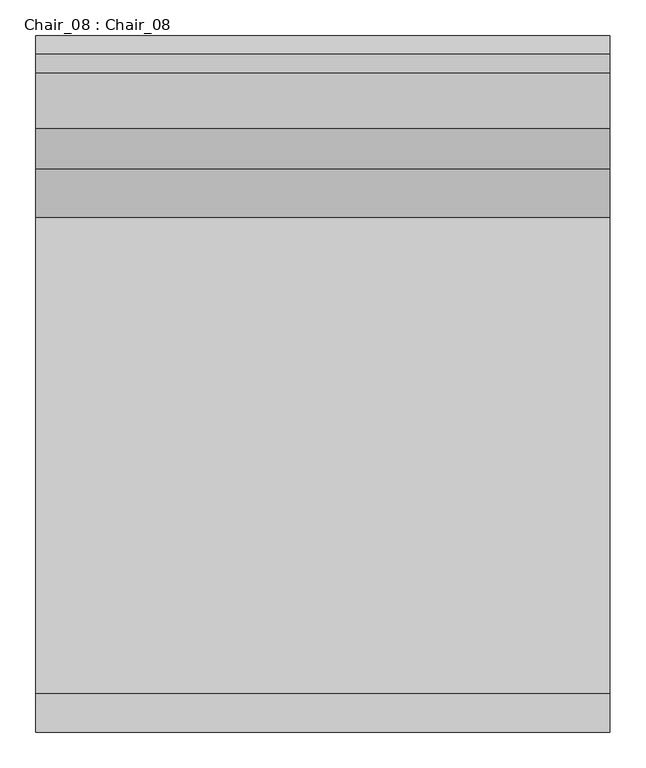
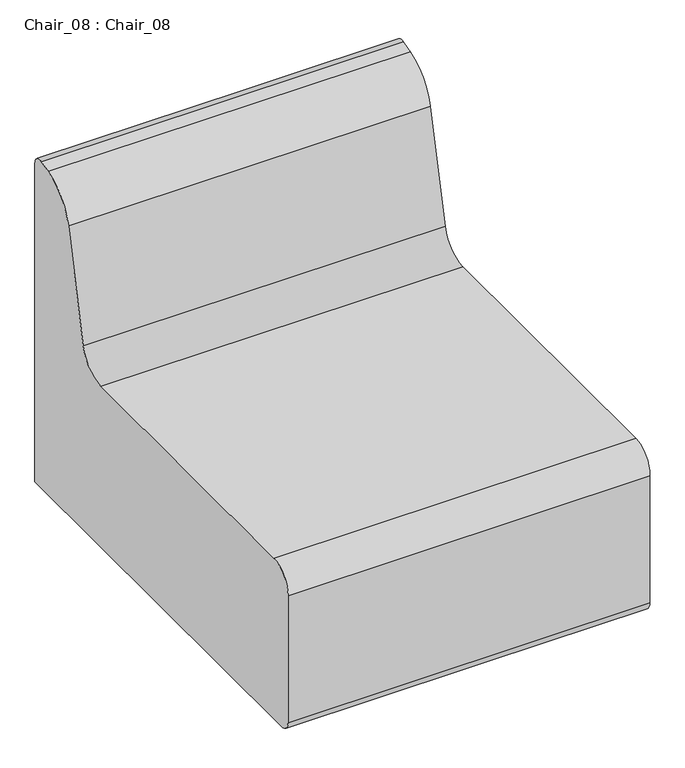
"""IFC4 building model written with IfcOpenShell, lengths in millimetres: furniture geometry, Chair_08 : Chair_08."""

import ifcopenshell
import ifcopenshell.guid

model = None  # the IFC model being written
_history = None  # IfcOwnerHistory: only IFC2X3 demands one
_inside = {}  # id of a spatial element -> (the spatial element, [elements in it])
_under = {}  # id of a project, library or spatial element -> (it, [spatial elements below it])
_declared = {}  # id of a project -> (the project, [libraries it declares])
_typed = {}  # id of a type object -> (the type object, [elements of that type])
_made_of = {}  # id of a material, layer set ... -> (it, [elements and type objects made of it])


def new_model(schema):
    """Start an empty IFC model of exactly this schema.

    Asked for "IFC4X3", IfcOpenShell would pick the latest addendum, in which some entities
    have other attributes; the version numbers below select the first issue.
    IFC2X3 requires an IfcOwnerHistory on every rooted entity: one is made here for all.
    """
    global model, _history
    if schema == "IFC4X3":
        model = ifcopenshell.file(schema_version=(4, 3, 0, 0))
    else:
        model = ifcopenshell.file(schema=schema)
    _inside.clear()
    _under.clear()
    _declared.clear()
    _typed.clear()
    _made_of.clear()
    _history = None
    if model.schema == "IFC2X3":
        org = make("IfcOrganization", Name="unknown")
        user = make(
            "IfcPersonAndOrganization",
            ThePerson=make("IfcPerson", FamilyName="unknown"),
            TheOrganization=org,
        )
        app = make(
            "IfcApplication",
            ApplicationDeveloper=org,
            Version="unknown",
            ApplicationFullName="unknown",
            ApplicationIdentifier="unknown",
        )
        _history = make(
            "IfcOwnerHistory",
            OwningUser=user,
            OwningApplication=app,
            ChangeAction="ADDED",
            CreationDate=0,
        )
    return model


def make(cls, **values):
    """One entity of the class cls with the attributes given. An attribute that is None is left unset."""
    return model.create_entity(
        cls, **{name: value for name, value in values.items() if value is not None}
    )


def rooted(cls, **values):
    """An entity with a GlobalId (a new one), such as an element, a storey or a relation."""
    return make(cls, GlobalId=ifcopenshell.guid.new(), OwnerHistory=_history, **values)


def si_unit(unit_type, name, prefix=None):
    """IfcSIUnit, for example si_unit("LENGTHUNIT", "METRE", prefix="MILLI")."""
    return make("IfcSIUnit", UnitType=unit_type, Prefix=prefix, Name=name)


def assignment(units):
    """IfcUnitAssignment: the units of a project."""
    return None if units is None else make("IfcUnitAssignment", Units=units)


def point(xyz):
    """IfcCartesianPoint."""
    return None if xyz is None else make("IfcCartesianPoint", Coordinates=xyz)


def direction(xyz):
    """IfcDirection."""
    return None if xyz is None else make("IfcDirection", DirectionRatios=xyz)


def frame(location, z_axis=None, x_axis=None):
    """IfcAxis2Placement3D, a coordinate frame: its origin and axes. An axis left out is left unset."""
    return make(
        "IfcAxis2Placement3D",
        Location=point(location),
        Axis=direction(z_axis),
        RefDirection=direction(x_axis),
    )


def frame_2d(location, x_axis=None):
    """IfcAxis2Placement2D, a coordinate frame in the plane: its origin and x axis."""
    return make(
        "IfcAxis2Placement2D", Location=point(location), RefDirection=direction(x_axis)
    )


def origin():
    """The frame at (0, 0, 0) with its axes left unset."""
    return frame((0.0, 0.0, 0.0))


def place(relative_to, where):
    """IfcLocalPlacement: puts the frame where relative to a parent placement (None: the world)."""
    return make(
        "IfcLocalPlacement", PlacementRelTo=relative_to, RelativePlacement=where
    )


def context(
    kind, dimensions, precision=None, world=None, true_north=None, identifier=None
):
    """IfcGeometricRepresentationContext, for example the 3D "Model" context."""
    return make(
        "IfcGeometricRepresentationContext",
        ContextIdentifier=identifier,
        ContextType=kind,
        CoordinateSpaceDimension=dimensions,
        Precision=precision,
        WorldCoordinateSystem=world,
        TrueNorth=true_north,
    )


def project(units=None, contexts=None):
    """IfcProject with its units and contexts."""
    return rooted(
        "IfcProject",
        Name="project",
        RepresentationContexts=contexts,
        UnitsInContext=assignment(units),
    )


def spatial(cls, under=None, at=None, **own):
    """A site, building, storey or space (cls), placed at a placement, below another one or the project."""
    s = rooted(cls, ObjectPlacement=at, **own)
    if under is not None:
        _under.setdefault(under.id(), (under, []))[1].append(s)
    return s


def polyline(points):
    """IfcPolyline through the points."""
    return make("IfcPolyline", Points=[point(p) for p in points])


def circle_curve(where, radius):
    """IfcCircle in the frame where."""
    return make("IfcCircle", Position=where, Radius=radius)


def trimmed(basis, trim1, trim2, sense, master):
    """IfcTrimmedCurve: the piece of a basis curve between two trims."""
    return make(
        "IfcTrimmedCurve",
        BasisCurve=basis,
        Trim1=trim1,
        Trim2=trim2,
        SenseAgreement=sense,
        MasterRepresentation=master,
    )


def segment(curve, same_sense, transition):
    """IfcCompositeCurveSegment."""
    return make(
        "IfcCompositeCurveSegment",
        Transition=transition,
        SameSense=same_sense,
        ParentCurve=curve,
    )


def composite_curve(segments, self_intersect=None):
    """IfcCompositeCurve: segments joined end to end."""
    return make("IfcCompositeCurve", Segments=segments, SelfIntersect=self_intersect)


def outline(outer, holes=None, kind="AREA"):
    """IfcArbitraryClosedProfileDef: a profile drawn as a closed curve; with holes, ...WithVoids."""
    if holes is None:
        return make("IfcArbitraryClosedProfileDef", ProfileType=kind, OuterCurve=outer)
    return make(
        "IfcArbitraryProfileDefWithVoids",
        ProfileType=kind,
        OuterCurve=outer,
        InnerCurves=holes,
    )


def extrude(swept, where, along, depth):
    """IfcExtrudedAreaSolid: the profile swept, set in the frame where, extruded along a direction by depth."""
    return make(
        "IfcExtrudedAreaSolid",
        SweptArea=swept,
        Position=where,
        ExtrudedDirection=direction(along),
        Depth=depth,
    )


def shape(context_of_items, identifier, shape_type, items):
    """IfcShapeRepresentation: the items that make up one representation, for example the "Body"."""
    return make(
        "IfcShapeRepresentation",
        ContextOfItems=context_of_items,
        RepresentationIdentifier=identifier,
        RepresentationType=shape_type,
        Items=items,
    )


def source(mapping_origin, context_of_items, identifier, shape_type, items):
    """IfcRepresentationMap: a shape defined once, which mapped items show again and again."""
    return make(
        "IfcRepresentationMap",
        MappingOrigin=mapping_origin,
        MappedRepresentation=shape(context_of_items, identifier, shape_type, items),
    )


def transform(
    local_origin,
    x_axis=None,
    y_axis=None,
    z_axis=None,
    scale=None,
    scale2=None,
    scale3=None,
    uniform=True,
):
    """IfcCartesianTransformationOperator3D, or its non-uniform kind. x_axis, y_axis, z_axis: its Axis1, 2, 3."""
    if uniform:
        return make(
            "IfcCartesianTransformationOperator3D",
            Axis1=direction(x_axis),
            Axis2=direction(y_axis),
            LocalOrigin=point(local_origin),
            Scale=scale,
            Axis3=direction(z_axis),
        )
    return make(
        "IfcCartesianTransformationOperator3DnonUniform",
        Axis1=direction(x_axis),
        Axis2=direction(y_axis),
        LocalOrigin=point(local_origin),
        Scale=scale,
        Axis3=direction(z_axis),
        Scale2=scale2,
        Scale3=scale3,
    )


def mapped(mapping_source, mapping_target):
    """IfcMappedItem: shows the shape of a source again, moved by a transform."""
    return make(
        "IfcMappedItem", MappingSource=mapping_source, MappingTarget=mapping_target
    )


def made_of(thing, what):
    """Note that an element or type object is made of a material, layer set ...; save() writes the relation."""
    if what is not None:
        _made_of.setdefault(what.id(), (what, []))[1].append(thing)
    return thing


def element(
    cls,
    number,
    at=None,
    inside=None,
    cuts=None,
    type_object=None,
    material=None,
    context=None,
    identifier="Body",
    shape_type=None,
    held_by="IfcProductDefinitionShape",
    body=None,
    shapes=None,
    **own,
):
    """One element of the class cls, such as IfcWall. Its Tag is "e" and its number.

    at: its placement. inside: the storey or other place that contains it. cuts: it is an
    opening in that element (IfcRelVoidsElement). A single representation is given by context,
    identifier, shape_type and body (its items); several are given by shapes. held_by: the class
    of the entity that holds the representations. save() writes the other relations.
    """
    e = rooted(cls, Tag="e%d" % number, ObjectPlacement=at, **own)
    if body is not None:
        shapes = [shape(context, identifier, shape_type, body)]
    if shapes is not None:
        e.Representation = make(held_by, Representations=shapes)
    if inside is not None:
        _inside.setdefault(inside.id(), (inside, []))[1].append(e)
    if cuts is not None:
        rooted(
            "IfcRelVoidsElement", RelatingBuildingElement=cuts, RelatedOpeningElement=e
        )
    if type_object is not None:
        _typed.setdefault(type_object.id(), (type_object, []))[1].append(e)
    return made_of(e, material)


def aggregate(whole, parts):
    """IfcRelAggregates: a whole, such as a stair, and the parts it consists of."""
    return rooted("IfcRelAggregates", RelatingObject=whole, RelatedObjects=parts)


def save(model, path):
    """Write the relations noted so far, then the file.

    IfcRelAggregates (storeys below a building ...), IfcRelContainedInSpatialStructure (elements
    in a storey), IfcRelDefinesByType, IfcRelAssociatesMaterial and IfcRelDeclares: one each for
    every whole, place, type object, material and project.
    """
    for whole, parts in _under.values():
        aggregate(whole, parts)
    for where, things in _inside.values():
        rooted(
            "IfcRelContainedInSpatialStructure",
            RelatedElements=things,
            RelatingStructure=where,
        )
    for kind, things in _typed.values():
        rooted("IfcRelDefinesByType", RelatedObjects=things, RelatingType=kind)
    for what, things in _made_of.values():
        rooted("IfcRelAssociatesMaterial", RelatedObjects=things, RelatingMaterial=what)
    for by, libraries in _declared.values():
        rooted("IfcRelDeclares", RelatingContext=by, RelatedDefinitions=libraries)
    model.write(path)


def chair_08_chair_08_bae2807b(model_context):
    return source(origin(), model_context, "Body", "SweptSolid", [
        extrude(outline(composite_curve([segment(polyline([(490.0, 0.0), (-465.0, 0.0)]), True, "CONTINUOUS"), segment(trimmed(circle_curve(frame_2d((-465.0, 25.0)), 25.0), [point((-465.0, 0.0))], [point((-490.0, 25.0))], False, "CARTESIAN"), True, "CONTINUOUS"), segment(polyline([(-490.0, 25.0), (-490.0, 325.0)]), True, "CONTINUOUS"), segment(trimmed(circle_curve(frame_2d((-435.0, 325.0)), 55.0), [point((-490.0, 325.0))], [point((-435.0, 380.0))], False, "CARTESIAN"), True, "CONTINUOUS"), segment(polyline([(-435.0, 380.0), (234.3194858, 380.0)]), True, "CONTINUOUS"), segment(trimmed(circle_curve(frame_2d((234.3194858, 450.0)), 70.0), [point((234.3194858, 380.0))], [point((302.5253904, 434.2534262))], True, "CARTESIAN"), True, "CONTINUOUS"), segment(polyline([(302.5253904, 434.2534262), (359.9073822, 682.8021396)]), True, "CONTINUOUS"), segment(trimmed(circle_curve(frame_2d((467.0880894, 658.0575237)), 110.0), [point((359.9073822, 682.8021396))], [point((438.0109892, 764.1448568))], False, "CARTESIAN"), True, "CONTINUOUS"), segment(polyline([(438.0109892, 764.1448568), (464.7132545, 771.4635858)]), True, "CONTINUOUS"), segment(trimmed(circle_curve(frame_2d((470.0, 752.1749798)), 20.0), [point((464.7132545, 771.4635858))], [point((490.0, 752.1749798))], False, "CARTESIAN"), True, "CONTINUOUS"), segment(polyline([(490.0, 752.1749798), (490.0, 0.0)]), True, "CONTINUOUS")], self_intersect=False)), frame((-404.3079115, 0.0, 0.0), z_axis=(1.0, 0.0, 0.0), x_axis=(0.0, 1.0, 0.0)), (0.0, 0.0, 1.0), 808.615823),
    ])


if __name__ == "__main__":
    model = new_model("IFC4")
    model_context = context("Model", 3, world=origin())
    ifc_project = project(units=[si_unit("LENGTHUNIT", "METRE", prefix="MILLI")], contexts=[model_context])
    site = spatial("IfcSite", under=ifc_project)
    building = spatial("IfcBuilding", under=site)
    placement = place(None, origin())
    chair_08_chair_08_shape = chair_08_chair_08_bae2807b(model_context)
    element("IfcFurniture", 1, ObjectType="Chair_08 : Chair_08", at=placement, inside=building, context=model_context, shape_type="MappedRepresentation", body=[
        mapped(chair_08_chair_08_shape, transform((0.0, 0.0, 0.0), x_axis=(1.0, 0.0, 0.0), y_axis=(0.0, 1.0, 0.0), z_axis=(0.0, 0.0, 1.0))),
    ])
    save(model, "model.ifc")
